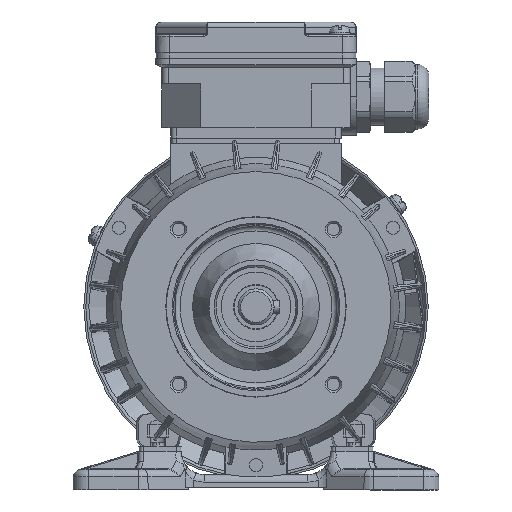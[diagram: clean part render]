
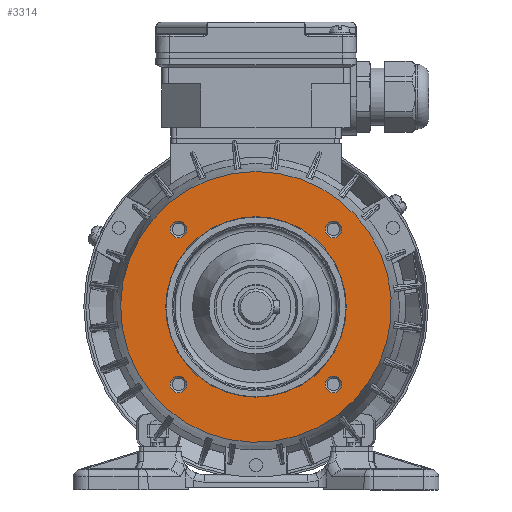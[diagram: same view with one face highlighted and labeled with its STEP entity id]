
A CAD part, front view. The second image highlights one B-rep face of the part: STEP entity #3314.
In plain terms, the highlighted planar face has unit normal (0, -1, 0) as drawn and (-1, 0, 0) by its records, which use the part's own axes.
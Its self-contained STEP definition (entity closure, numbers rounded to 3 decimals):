
#3314 = ADVANCED_FACE( '', ( #8733, #8734, #8735, #8736, #8737, #8738 ), #8739, .F. );
#8733 = FACE_BOUND( '', #16988, .T. );
#8734 = FACE_BOUND( '', #16989, .T. );
#8735 = FACE_BOUND( '', #16990, .T. );
#8736 = FACE_BOUND( '', #16991, .T. );
#8737 = FACE_BOUND( '', #16992, .T. );
#8738 = FACE_OUTER_BOUND( '', #16993, .T. );
#8739 = PLANE( '', #16994 );
#16988 = EDGE_LOOP( '', ( #68324 ) );
#16989 = EDGE_LOOP( '', ( #68325 ) );
#16990 = EDGE_LOOP( '', ( #68326 ) );
#16991 = EDGE_LOOP( '', ( #68327 ) );
#16992 = EDGE_LOOP( '', ( #68328 ) );
#16993 = EDGE_LOOP( '', ( #68329 ) );
#16994 = AXIS2_PLACEMENT_3D( '', #68330, #68331, #68332 );
#68324 = ORIENTED_EDGE( '', *, *, #90950, .T. );
#68325 = ORIENTED_EDGE( '', *, *, #90951, .T. );
#68326 = ORIENTED_EDGE( '', *, *, #90952, .T. );
#68327 = ORIENTED_EDGE( '', *, *, #90953, .T. );
#68328 = ORIENTED_EDGE( '', *, *, #90954, .F. );
#68329 = ORIENTED_EDGE( '', *, *, #90955, .T. );
#68330 = CARTESIAN_POINT( '', ( 2.5, 0., 52.5 ) );
#68331 = DIRECTION( '', ( 1., 0., 0. ) );
#68332 = DIRECTION( '', ( 0., 0., -1. ) );
#90950 = EDGE_CURVE( '', #100402, #100402, #100403, .T. );
#90951 = EDGE_CURVE( '', #100404, #100404, #100405, .T. );
#90952 = EDGE_CURVE( '', #100406, #100406, #100407, .T. );
#90953 = EDGE_CURVE( '', #100408, #100408, #100409, .T. );
#90954 = EDGE_CURVE( '', #100410, #100410, #100411, .T. );
#90955 = EDGE_CURVE( '', #100412, #100412, #100413, .T. );
#100402 = VERTEX_POINT( '', #114308 );
#100403 = CIRCLE( '', #114309, 3.259 );
#100404 = VERTEX_POINT( '', #114310 );
#100405 = CIRCLE( '', #114311, 3.259 );
#100406 = VERTEX_POINT( '', #114312 );
#100407 = CIRCLE( '', #114313, 3.259 );
#100408 = VERTEX_POINT( '', #114314 );
#100409 = CIRCLE( '', #114315, 3.259 );
#100410 = VERTEX_POINT( '', #114316 );
#100411 = CIRCLE( '', #114317, 35. );
#100412 = VERTEX_POINT( '', #114318 );
#100413 = CIRCLE( '', #114319, 52.5 );
#114308 = CARTESIAN_POINT( '', ( 2.5, 26.794, 30.052 ) );
#114309 = AXIS2_PLACEMENT_3D( '', #163364, #163365, #163366 );
#114310 = CARTESIAN_POINT( '', ( 2.5, 26.794, -30.052 ) );
#114311 = AXIS2_PLACEMENT_3D( '', #163367, #163368, #163369 );
#114312 = CARTESIAN_POINT( '', ( 2.5, -33.311, -30.052 ) );
#114313 = AXIS2_PLACEMENT_3D( '', #163370, #163371, #163372 );
#114314 = CARTESIAN_POINT( '', ( 2.5, -33.311, 30.052 ) );
#114315 = AXIS2_PLACEMENT_3D( '', #163373, #163374, #163375 );
#114316 = CARTESIAN_POINT( '', ( 2.5, 0., 35. ) );
#114317 = AXIS2_PLACEMENT_3D( '', #163376, #163377, #163378 );
#114318 = CARTESIAN_POINT( '', ( 2.5, 0., 52.5 ) );
#114319 = AXIS2_PLACEMENT_3D( '', #163379, #163380, #163381 );
#163364 = CARTESIAN_POINT( '', ( 2.5, 30.052, 30.052 ) );
#163365 = DIRECTION( '', ( 1., 0., 0. ) );
#163366 = DIRECTION( '', ( 0., -1., 0. ) );
#163367 = CARTESIAN_POINT( '', ( 2.5, 30.052, -30.052 ) );
#163368 = DIRECTION( '', ( 1., 0., 0. ) );
#163369 = DIRECTION( '', ( 0., -1., 0. ) );
#163370 = CARTESIAN_POINT( '', ( 2.5, -30.052, -30.052 ) );
#163371 = DIRECTION( '', ( 1., 0., 0. ) );
#163372 = DIRECTION( '', ( 0., -1., 0. ) );
#163373 = CARTESIAN_POINT( '', ( 2.5, -30.052, 30.052 ) );
#163374 = DIRECTION( '', ( 1., 0., 0. ) );
#163375 = DIRECTION( '', ( 0., -1., 0. ) );
#163376 = CARTESIAN_POINT( '', ( 2.5, 0., 0. ) );
#163377 = DIRECTION( '', ( -1., 0., 0. ) );
#163378 = DIRECTION( '', ( 0., 0., 1. ) );
#163379 = CARTESIAN_POINT( '', ( 2.5, 0., 0. ) );
#163380 = DIRECTION( '', ( -1., 0., 0. ) );
#163381 = DIRECTION( '', ( 0., 0., 1. ) );
